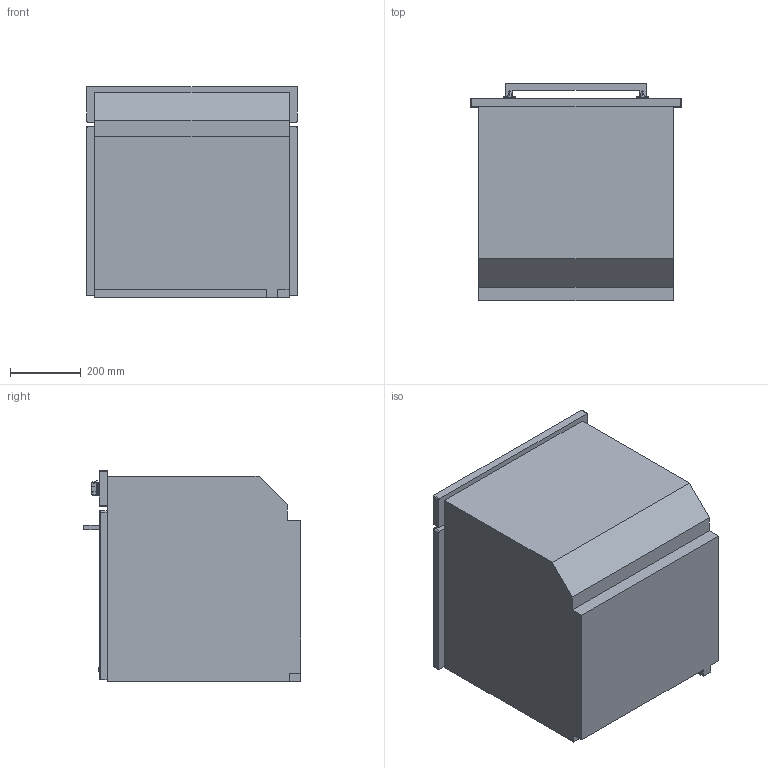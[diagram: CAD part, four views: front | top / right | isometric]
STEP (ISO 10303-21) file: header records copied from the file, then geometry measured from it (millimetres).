
FILE_DESCRIPTION(/* description */ (''),/* implementation_level */ '2;1');
FILE_NAME(/* name */ 'forno sf6400tvx.stp',/* time_stamp */ '2019-04-19T10:52:07+02:00',/* author */ (''),/* organization */ (''),/* preprocessor_version */ 'ST-DEVELOPER v16',/* originating_system */ 'SIEMENS PLM Software NX 11.0',/* authorisation */ '');
FILE_SCHEMA (('AUTOMOTIVE_DESIGN { 1 0 10303 214 3 1 1 1 }'));
Length unit declared in the file: millimetre
Products named in the file (1): gobb332C866273r0
Bounding box: 597 x 615.5 x 596 mm (x, y, z)
Volume: 178037095.6 mm3; surface area: 3450040.2 mm2
Topology: 19 solids, 19 shells, 228 faces, 544 edges, 360 vertices
Faces by surface type: plane 139, cylinder 52, bspline 18, extrusion 11, torus 8
Full cylindrical faces by diameter (mm): 4.608 x6, 5 x4, 6 x2, 16 x2, 22 x2, 32 x2
Entity records: 7508 total; most frequent: CARTESIAN_POINT 2225, ORIENTED_EDGE 1042, DIRECTION 997, EDGE_CURVE 521, VERTEX_POINT 356, AXIS2_PLACEMENT_3D 348, VECTOR 301, LINE 290
